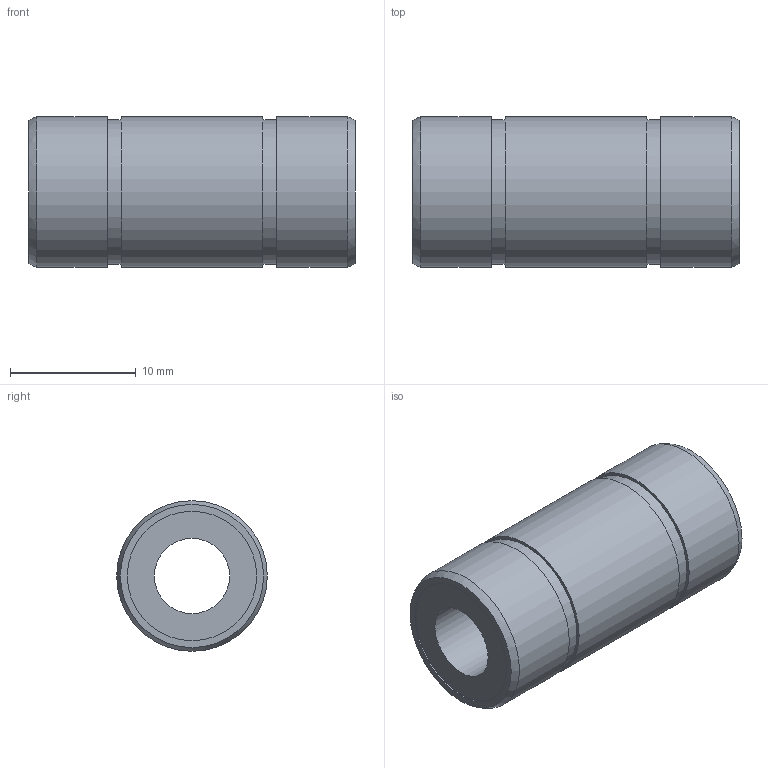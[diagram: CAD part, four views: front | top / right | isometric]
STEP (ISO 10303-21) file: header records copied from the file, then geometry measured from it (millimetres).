
FILE_DESCRIPTION((''),'2;1');
FILE_NAME('D:\製品 (図面)\カタログ用3D\メンテナンスフリー関連\STEP形式\L-MF\L6MF.stp','2010-06-01T16:11:34',('Tsuchiya'),(''),'Autodesk Inventor 10','Autodesk Inventor 10','');
FILE_SCHEMA(('AUTOMOTIVE_DESIGN { 1 0 10303 214 1 1 1 1 }'));
Length unit declared in the file: millimetre
Products named in the file (1): L6MF
Bounding box: 26 x 12 x 12 mm (x, y, z)
Volume: 2167.6 mm3; surface area: 1658 mm2
Topology: 1 solids, 1 shells, 18 faces, 28 edges, 18 vertices
Faces by surface type: cylinder 8, plane 8, bspline 2
Full cylindrical faces by diameter (mm): 6 x1, 10.3 x2, 11.5 x2, 12 x3
Entity records: 435 total; most frequent: CARTESIAN_POINT 107, DIRECTION 70, ORIENTED_EDGE 36, EDGE_LOOP 36, AXIS2_PLACEMENT_3D 35, VERTEX_POINT 18, CIRCLE 18, EDGE_CURVE 18
